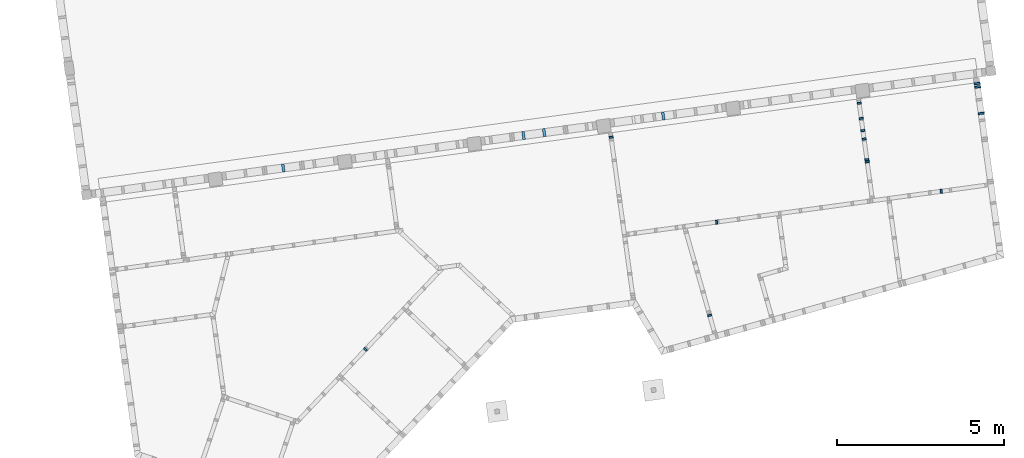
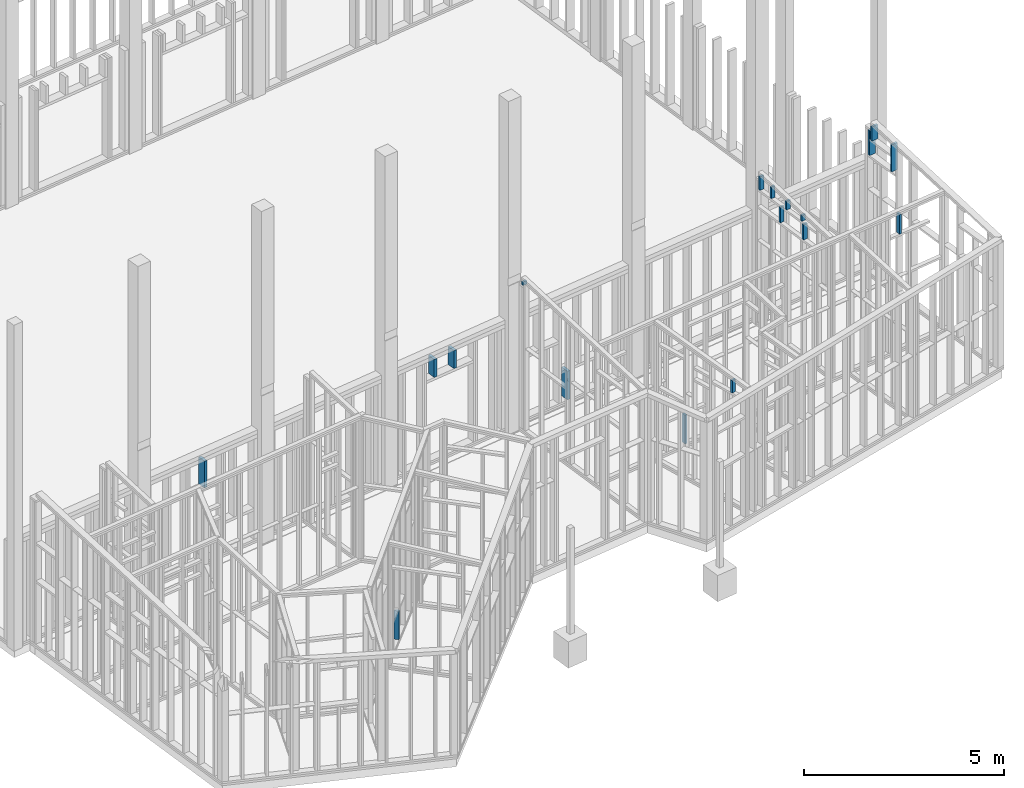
# One storey, part 8 of 24: 18 columns.
"""IFC2X3 building model written with IfcOpenShell, lengths in metres."""

from ifc_helpers import new_model, entity, si_unit, converted_unit, derived_unit, money_unit, direction, frame, origin_with_axes, origin_2d_with_axis, place, context, subcontext, project, spatial, rectangle, extrude, material, type_object, element, save


model = new_model("IFC2X3")

# Units and contexts
model_context = context("Model", 3, precision=1e-05, world=origin_with_axes(), true_north=direction((0.0, 1.0)))
body_context = subcontext(model_context, "Body", "Model", "MODEL_VIEW")
ifc_project = project(units=[si_unit("LENGTHUNIT", "METRE"), si_unit("AREAUNIT", "SQUARE_METRE"), si_unit("VOLUMEUNIT", "CUBIC_METRE"), converted_unit("PLANEANGLEUNIT", "DEGREE", entity("IfcPlaneAngleMeasure", 0.0174532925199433), si_unit("PLANEANGLEUNIT", "RADIAN"), dimensions=[0, 0, 0, 0, 0, 0, 0]), money_unit("EUR"), converted_unit("TIMEUNIT", "Year", entity("IfcTimeMeasure", 31557600.0), si_unit("TIMEUNIT", "SECOND"), dimensions=[0, 0, 1, 0, 0, 0, 0]), si_unit("MASSUNIT", "GRAM", prefix="KILO"), si_unit("THERMODYNAMICTEMPERATUREUNIT", "DEGREE_CELSIUS"), si_unit("LUMINOUSINTENSITYUNIT", "LUMEN"), si_unit("ENERGYUNIT", "JOULE", prefix="MEGA"), derived_unit("THERMALCONDUCTANCEUNIT", [(si_unit("POWERUNIT", "WATT"), 1), (si_unit("LENGTHUNIT", "METRE"), -1), (si_unit("THERMODYNAMICTEMPERATUREUNIT", "KELVIN"), -1)]), derived_unit("SPECIFICHEATCAPACITYUNIT", [(si_unit("ENERGYUNIT", "JOULE"), 1), (si_unit("MASSUNIT", "GRAM", prefix="KILO"), -1), (si_unit("THERMODYNAMICTEMPERATUREUNIT", "KELVIN"), -1)]), derived_unit("MASSDENSITYUNIT", [(si_unit("MASSUNIT", "GRAM", prefix="KILO"), 1), (si_unit("VOLUMEUNIT", "CUBIC_METRE"), -1)])], contexts=[model_context])

# Site, building, storey
site_placement = place(None, origin_with_axes())
site = spatial("IfcSite", under=ifc_project, at=site_placement, Name="Gelände", CompositionType="ELEMENT")
building_placement = place(site_placement, origin_with_axes())
building = spatial("IfcBuilding", under=site, at=building_placement, Name="Gebäude", CompositionType="ELEMENT")
storey_placement = place(building_placement, origin_with_axes())
storey = spatial("IfcBuildingStorey", under=building, at=storey_placement, Name="EG", CompositionType="ELEMENT", Elevation=0.0)

# Columns
ifc_material = material(Name="Bauholz")
column_type_1 = type_object("IfcColumnType", Name="Bauholz 80 x 240", PredefinedType="NOTDEFINED")
for number, where, z_axis, x_axis in (
    (1, (100.3120111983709, -149.1503586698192, 2.480000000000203), (0.0, 0.0, 1.0), (0.9907484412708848, 0.1357111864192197, 0.0)),
    (2, (99.6927934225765, -149.2351781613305, 2.480000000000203), (0.0, 0.0, 1.0), (0.9907484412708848, 0.1357111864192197, 0.0)),
):
    element("IfcColumn", number, at=place(storey_placement, frame(where, z_axis=z_axis, x_axis=x_axis)), inside=storey, type_object=column_type_1, material=ifc_material, Name="Stütze-018", context=body_context, shape_type="SweptSolid", body=[
        extrude(rectangle(XDim=0.08, YDim=0.24, at=origin_2d_with_axis()), origin_with_axes(), (0.0, 0.0, 1.0), 0.5519996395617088),
    ])
column_1_placement = place(storey_placement, frame((92.49235612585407, -150.208866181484, 2.214691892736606), z_axis=(0.0, 0.0, 1.0), x_axis=(0.9907484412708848, 0.1357111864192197, 0.0)))
element("IfcColumn", 3, at=column_1_placement, inside=storey, type_object=column_type_1, material=ifc_material, Name="Stütze-018", context=body_context, shape_type="SweptSolid", body=[
    extrude(rectangle(XDim=0.08, YDim=0.24, at=origin_2d_with_axis()), origin_with_axes(), (0.0, 0.0, 1.0), 0.8173077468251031),
])
column_2_placement = place(storey_placement, frame((103.8791329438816, -148.6491231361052, -0.02800000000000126), z_axis=(0.0, 0.0, 1.0), x_axis=(0.9907484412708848, 0.1357111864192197, 0.0)))
element("IfcColumn", 4, at=column_2_placement, inside=storey, type_object=column_type_1, material=ifc_material, Name="Stütze-018", context=body_context, shape_type="SweptSolid", body=[
    extrude(rectangle(XDim=0.08, YDim=0.24, at=origin_2d_with_axis()), origin_with_axes(), (0.0, 0.0, 1.0), 0.8750000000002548),
])
column_type_2 = type_object("IfcColumnType", Name="Bauholz 60 x 120", PredefinedType="NOTDEFINED")
column_3_placement = place(storey_placement, frame((102.3150268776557, -149.2852750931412, 4.356648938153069), z_axis=(0.0, 0.0, 1.0), x_axis=(-0.1357096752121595, 0.9907486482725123, 0.0)))
element("IfcColumn", 5, at=column_3_placement, inside=storey, type_object=column_type_2, material=ifc_material, Name="Stütze-018", context=body_context, shape_type="SweptSolid", body=[
    extrude(rectangle(XDim=0.06, YDim=0.12, at=origin_2d_with_axis()), frame((0.0, 0.0, 0.0), z_axis=(0.0, 0.0, -1.0), x_axis=(-1.0, 0.0, 0.0)), (0.0, 0.0, -1.0), 0.1077397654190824),
])
column_4_placement = place(storey_placement, frame((109.9910337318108, -150.0271844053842, 3.51256324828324), z_axis=(0.0, 0.0, 1.0), x_axis=(-0.1357096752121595, 0.9907486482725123, 0.0)))
element("IfcColumn", 6, at=column_4_placement, inside=storey, type_object=column_type_2, material=ifc_material, Name="Stütze-018", context=body_context, shape_type="SweptSolid", body=[
    extrude(rectangle(XDim=0.06, YDim=0.12, at=origin_2d_with_axis()), frame((0.0, 0.0, 0.0), z_axis=(0.0, 0.0, -1.0), x_axis=(-1.0, 0.0, 0.0)), (0.0, 0.0, -1.0), 0.4719999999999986),
])
column_5_placement = place(storey_placement, frame((112.2107179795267, -150.9086023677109, 3.450580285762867), z_axis=(0.0, 0.0, 1.0), x_axis=(0.9907484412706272, 0.1357111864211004, 0.0)))
element("IfcColumn", 7, at=column_5_placement, inside=storey, type_object=column_type_2, material=ifc_material, Name="Stütze-018", context=body_context, shape_type="SweptSolid", body=[
    extrude(rectangle(XDim=0.06, YDim=0.12, at=origin_2d_with_axis()), frame((0.0, 0.0, 0.0), z_axis=(0.0, 0.0, -1.0), x_axis=(-1.0, 0.0, 0.0)), (0.0, 0.0, -1.0), 0.5959981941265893),
])
column_6_placement = place(storey_placement, frame((105.2699103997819, -154.6264093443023, 3.279521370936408), z_axis=(0.0, 0.0, 1.0), x_axis=(0.2723507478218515, -0.962198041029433, 0.0)))
element("IfcColumn", 8, at=column_6_placement, inside=storey, type_object=column_type_2, material=ifc_material, Name="Stütze-018", context=body_context, shape_type="SweptSolid", body=[
    extrude(rectangle(XDim=0.06, YDim=0.12, at=origin_2d_with_axis()), frame((0.0, 0.0, 0.0), z_axis=(0.0, 0.0, -1.0), x_axis=(-1.0, 0.0, 0.0)), (0.0, 0.0, -1.0), 0.383649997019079),
])
column_7_placement = place(storey_placement, frame((109.981973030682, -149.9610367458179, 4.044563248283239), z_axis=(0.0, 0.0, 1.0), x_axis=(-0.1357096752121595, 0.9907486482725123, 0.0)))
element("IfcColumn", 9, at=column_7_placement, inside=storey, type_object=column_type_2, material=ifc_material, Name="Stütze-018", context=body_context, shape_type="SweptSolid", body=[
    extrude(rectangle(XDim=0.06, YDim=0.12, at=origin_2d_with_axis()), frame((0.0, 0.0, 0.0), z_axis=(0.0, 0.0, -1.0), x_axis=(-1.0, 0.0, 0.0)), (0.0, 0.0, -1.0), 0.1795006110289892),
])
column_8_placement = place(storey_placement, frame((109.8624488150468, -149.0884500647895, 3.51256324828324), z_axis=(0.0, 0.0, 1.0), x_axis=(-0.1357096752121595, 0.9907486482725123, 0.0)))
element("IfcColumn", 10, at=column_8_placement, inside=storey, type_object=column_type_2, material=ifc_material, Name="Stütze-018", context=body_context, shape_type="SweptSolid", body=[
    extrude(rectangle(XDim=0.06, YDim=0.12, at=origin_2d_with_axis()), frame((0.0, 0.0, 0.0), z_axis=(0.0, 0.0, -1.0), x_axis=(-1.0, 0.0, 0.0)), (0.0, 0.0, -1.0), 0.4719999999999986),
])
column_9_placement = place(storey_placement, frame((109.897154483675, -149.3418188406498, 4.044563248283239), z_axis=(0.0, 0.0, 1.0), x_axis=(-0.1357096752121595, 0.9907486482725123, 0.0)))
element("IfcColumn", 11, at=column_9_placement, inside=storey, type_object=column_type_2, material=ifc_material, Name="Stütze-018", context=body_context, shape_type="SweptSolid", body=[
    extrude(rectangle(XDim=0.06, YDim=0.12, at=origin_2d_with_axis()), frame((0.0, 0.0, 0.0), z_axis=(0.0, 0.0, -1.0), x_axis=(-1.0, 0.0, 0.0)), (0.0, 0.0, -1.0), 0.267338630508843),
])
column_10_placement = place(storey_placement, frame((109.8123359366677, -148.7226009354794, 4.044563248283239), z_axis=(0.0, 0.0, 1.0), x_axis=(-0.1357096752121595, 0.9907486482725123, 0.0)))
element("IfcColumn", 12, at=column_10_placement, inside=storey, type_object=column_type_2, material=ifc_material, Name="Stütze-018", context=body_context, shape_type="SweptSolid", body=[
    extrude(rectangle(XDim=0.06, YDim=0.12, at=origin_2d_with_axis()), frame((0.0, 0.0, 0.0), z_axis=(0.0, 0.0, -1.0), x_axis=(-1.0, 0.0, 0.0)), (0.0, 0.0, -1.0), 0.355176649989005),
])
column_11_placement = place(storey_placement, frame((109.749908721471, -148.2668509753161, 4.044563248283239), z_axis=(0.0, 0.0, 1.0), x_axis=(-0.1357096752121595, 0.9907486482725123, 0.0)))
element("IfcColumn", 13, at=column_11_placement, inside=storey, type_object=column_type_2, material=ifc_material, Name="Stütze-018", context=body_context, shape_type="SweptSolid", body=[
    extrude(rectangle(XDim=0.06, YDim=0.12, at=origin_2d_with_axis()), frame((0.0, 0.0, 0.0), z_axis=(0.0, 0.0, -1.0), x_axis=(-1.0, 0.0, 0.0)), (0.0, 0.0, -1.0), 0.4198262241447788),
])
column_12_placement = place(storey_placement, frame((105.4791417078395, -151.8306836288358, -0.04299999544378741), z_axis=(0.0, 0.0, 1.0), x_axis=(0.9907484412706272, 0.1357111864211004, 0.0)))
element("IfcColumn", 14, at=column_12_placement, inside=storey, type_object=column_type_2, material=ifc_material, Name="Stütze-018", context=body_context, shape_type="SweptSolid", body=[
    extrude(rectangle(XDim=0.06, YDim=0.12, at=origin_2d_with_axis()), frame((0.0, 0.0, 0.0), z_axis=(0.0, 0.0, -1.0), x_axis=(-1.0, 0.0, 0.0)), (0.0, 0.0, -1.0), 0.875),
])
column_13_placement = place(storey_placement, frame((94.96024173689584, -155.6449409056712, -0.04300000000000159), z_axis=(0.0, 0.0, 1.0), x_axis=(-0.6874340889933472, -0.7262467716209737, 0.0)))
element("IfcColumn", 15, at=column_13_placement, inside=storey, type_object=column_type_2, material=ifc_material, Name="Stütze-018", context=body_context, shape_type="SweptSolid", body=[
    extrude(rectangle(XDim=0.06, YDim=0.12, at=origin_2d_with_axis()), frame((0.0, 0.0, 0.0), z_axis=(0.0, 0.0, -1.0), x_axis=(-1.0, 0.0, 0.0)), (0.0, 0.0, -1.0), 0.8749999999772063),
])
column_type_3 = type_object("IfcColumnType", Name="Bauholz 60 x 180", PredefinedType="NOTDEFINED")
column_14_placement = place(storey_placement, frame((113.4071876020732, -148.5721123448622, 3.527928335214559), z_axis=(0.0, 0.0, 1.0), x_axis=(-0.1357111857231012, 0.9907484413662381, 0.0)))
element("IfcColumn", 16, at=column_14_placement, inside=storey, type_object=column_type_3, material=ifc_material, Name="Stütze-018", context=body_context, shape_type="SweptSolid", body=[
    extrude(rectangle(XDim=0.06, YDim=0.18, at=origin_2d_with_axis()), frame((0.0, 0.0, 0.0), z_axis=(0.0, 0.0, -1.0), x_axis=(-1.0, 0.0, 0.0)), (0.0, 0.0, -1.0), 0.824201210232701),
])
column_15_placement = place(storey_placement, frame((113.2847760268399, -147.6784572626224, 3.527928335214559), z_axis=(0.0, 0.0, 1.0), x_axis=(-0.1357111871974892, 0.9907484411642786, 0.0)))
element("IfcColumn", 17, at=column_15_placement, inside=storey, type_object=column_type_3, material=ifc_material, Name="Stütze-018", context=body_context, shape_type="SweptSolid", body=[
    extrude(rectangle(XDim=0.06, YDim=0.18, at=origin_2d_with_axis()), origin_with_axes(), (0.0, 0.0, 1.0), 0.7687206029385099),
])
column_16_placement = place(storey_placement, frame((113.2987862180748, -147.7807368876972, 4.029928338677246), z_axis=(0.0, 0.0, 1.0), x_axis=(-0.1357111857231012, 0.9907484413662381, 0.0)))
element("IfcColumn", 18, at=column_16_placement, inside=storey, type_object=column_type_3, material=ifc_material, Name="Stütze-018", context=body_context, shape_type="SweptSolid", body=[
    extrude(rectangle(XDim=0.06, YDim=0.18, at=origin_2d_with_axis()), frame((0.0, 0.0, 0.0), z_axis=(0.0, 0.0, -1.0), x_axis=(-1.0, 0.0, 0.0)), (0.0, 0.0, -1.0), 0.4344603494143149),
])

save(model, "model.ifc")
